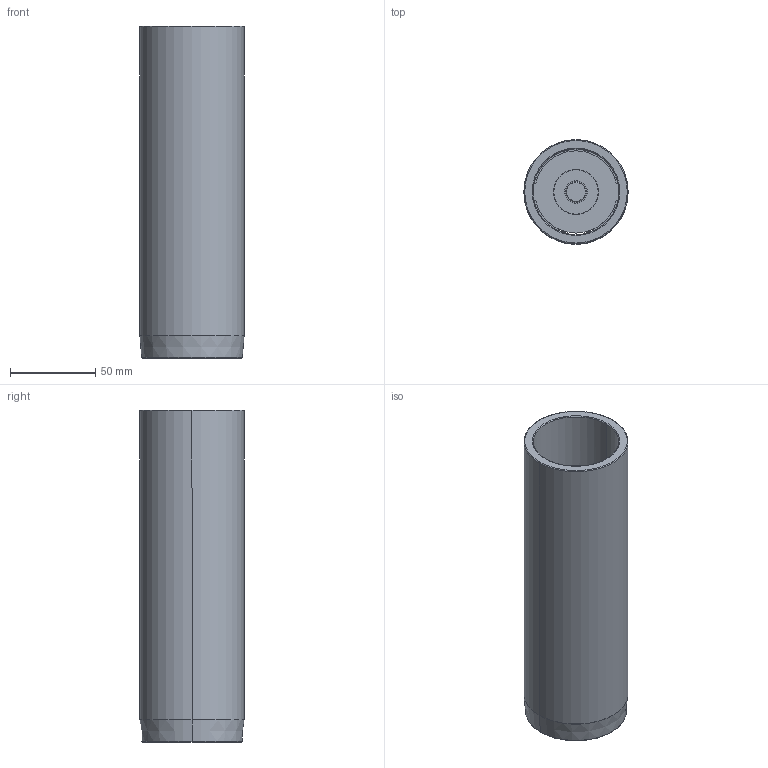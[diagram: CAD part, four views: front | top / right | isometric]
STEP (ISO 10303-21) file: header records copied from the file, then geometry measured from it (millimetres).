
FILE_DESCRIPTION((''),'2;1');
FILE_NAME('C12_050_195.stp','2009-01-28T14:18:56',(''),(''),'Mechanical Desktop 2009','Mechanical Desktop 2009',', , ');
FILE_SCHEMA(('CONFIG_CONTROL_DESIGN'));
Length unit declared in the file: millimetre
Products named in the file (2): Product; blmdl1
Assembly tree (1 placements, depth 2):
  Product
    blmdl1
Bounding box: 61.25 x 61.25 x 195 mm (x, y, z)
Volume: 189695.8 mm3; surface area: 80367.8 mm2
Topology: 5 solids, 5 shells, 79 faces, 200 edges, 134 vertices
Faces by surface type: cylinder 34, plane 29, torus 10, cone 6
Entity records: 2585 total; most frequent: DIRECTION 480, CARTESIAN_POINT 435, ORIENTED_EDGE 400, AXIS2_PLACEMENT_3D 203, EDGE_CURVE 200, VERTEX_POINT 134, CIRCLE 122, EDGE_LOOP 92
